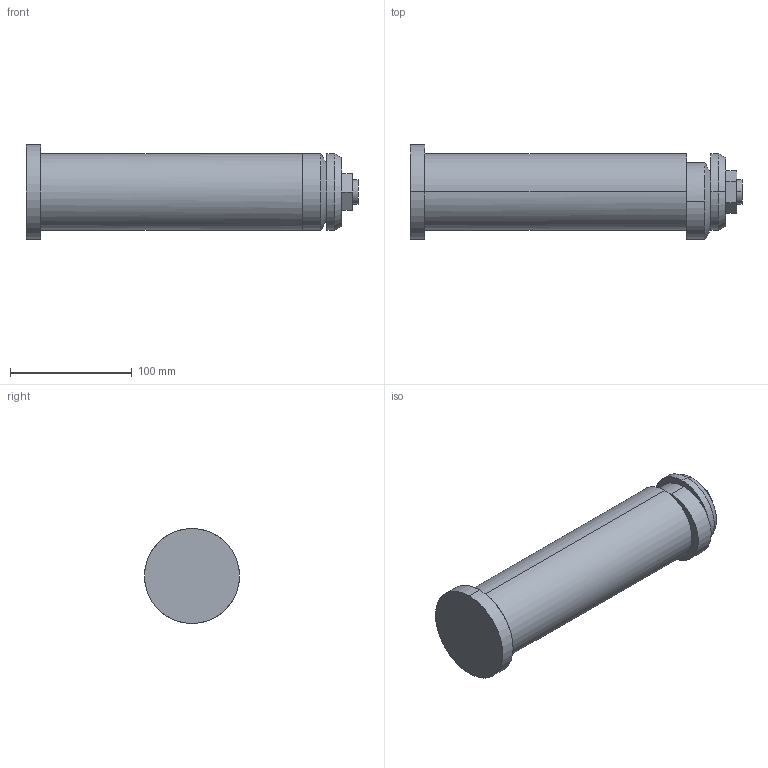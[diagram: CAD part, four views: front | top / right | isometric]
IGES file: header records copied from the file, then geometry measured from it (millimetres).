
Start section: START RECORD GO HERE.
Global section: file name: 395PSF-8.igs; native system: DASSAULT SYSTEMES CATIA V5 R20 - www.3ds.com; preprocessor: CATIA Version 5 Release 20 ; author: Utente; organization: NB04-ASUS; date: 20200409.224705; units: millimetre
Bounding box: 272.5 x 78 x 78 mm (x, y, z)
Surface area: 71354 mm2 (no closed solid volume)
Topology: 0 solids, 0 shells, 34 faces, 142 edges, 142 vertices
Faces by surface type: revolution 18, extrusion 16
